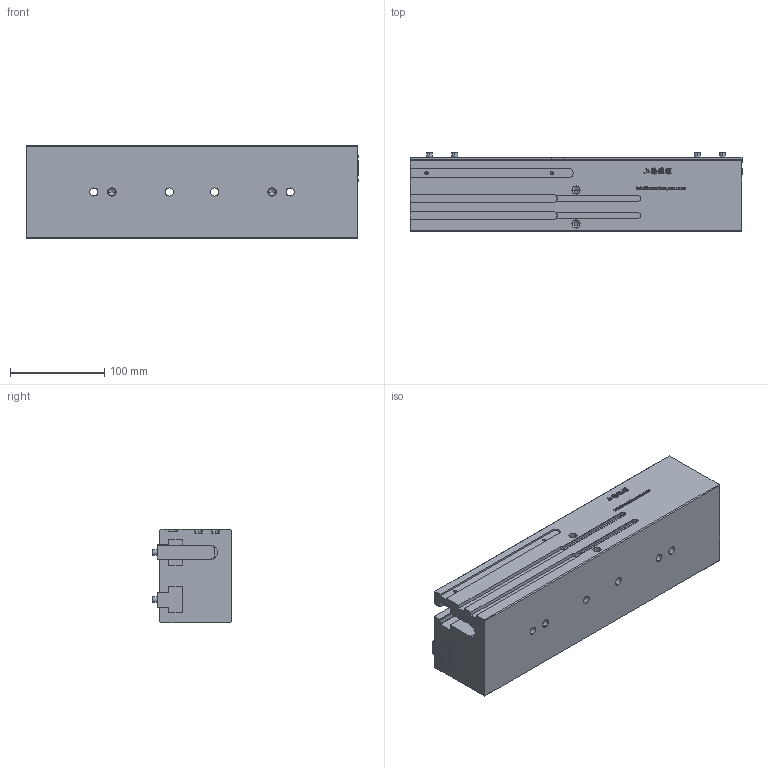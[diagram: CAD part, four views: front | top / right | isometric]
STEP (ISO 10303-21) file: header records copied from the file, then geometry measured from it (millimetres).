
FILE_DESCRIPTION (( 'STEP AP203' ), '1' );
FILE_NAME ('GPL40-150-原始檔-組合-W106.04.18.STEP', '2017-04-17T09:37:23', ( 'DanyaoCAD' ), ( '' ), 'SwSTEP 2.0', 'SolidWorks 2016', '' );
FILE_SCHEMA (( 'CONFIG_CONTROL_DESIGN' ));
Length unit declared in the file: millimetre
Products named in the file (3): Griffa; Corpo; GPL40-150-原始檔-組合-W106.04.18
Assembly tree (3 placements, depth 2):
  GPL40-150-原始檔-組合-W106.04.18
    Griffa  x2
    Corpo
Bounding box: 352 x 84 x 99 mm (x, y, z)
Volume: 2288297 mm3; surface area: 272630.5 mm2
Topology: 3 solids, 3 shells, 1025 faces, 2855 edges, 1882 vertices
Faces by surface type: bspline 640, plane 273, cylinder 76, cone 36
Entity records: 47820 total; most frequent: CARTESIAN_POINT 26699, ORIENTED_EDGE 5442, EDGE_CURVE 2721, DIRECTION 2277, VERTEX_POINT 1809, B_SPLINE_CURVE_WITH_KNOTS 1284, VECTOR 1283, LINE 1283
